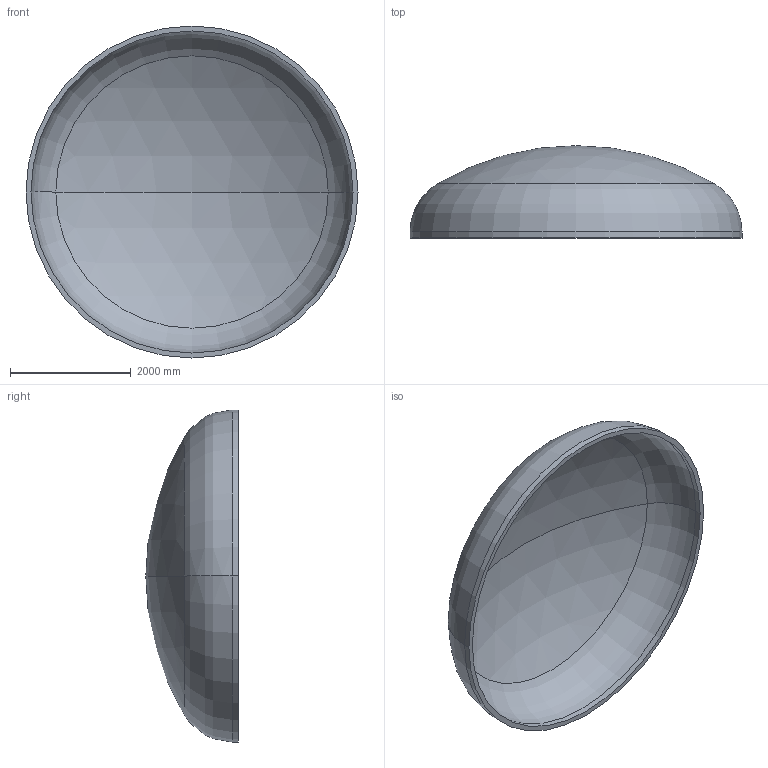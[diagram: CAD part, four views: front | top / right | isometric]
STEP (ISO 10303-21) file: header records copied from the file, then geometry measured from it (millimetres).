
FILE_DESCRIPTION (( 'STEP AP203' ), '1' );
FILE_NAME ('DIN 28013 Korbbogenform_-_Boden DIN 28013 - 5500 x 100 - I - s=82.step', '2016-07-04T10:34:53', ( '' ), ( '' ), 'SwSTEP 2.0', 'SolidWorks 2013', '' );
FILE_SCHEMA (( 'CONFIG_CONTROL_DESIGN' ));
Length unit declared in the file: millimetre
Products named in the file (1): DIN 28013 Korbbogenform_-_Boden DIN 28013 - 5500 x 100 - I - s=82
Bounding box: 5500 x 1530 x 5500 mm (x, y, z)
Volume: 2783934910.1 mm3; surface area: 69310643 mm2
Topology: 1 solids, 1 shells, 13 faces, 24 edges, 14 vertices
Faces by surface type: torus 4, cylinder 4, sphere 4, plane 1
Entity records: 407 total; most frequent: DIRECTION 72, CARTESIAN_POINT 52, ORIENTED_EDGE 48, AXIS2_PLACEMENT_3D 34, EDGE_CURVE 24, CIRCLE 20, EDGE_LOOP 14, VERTEX_POINT 14
